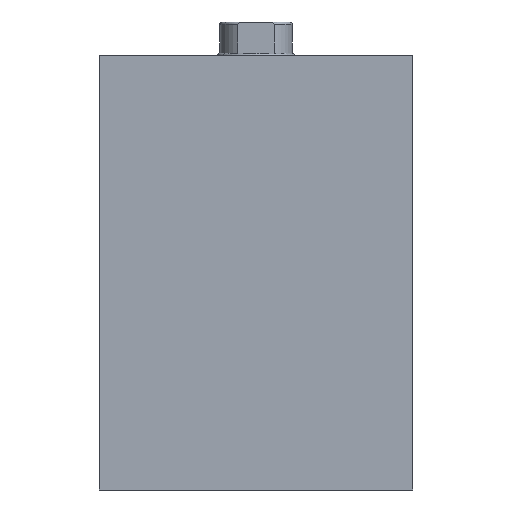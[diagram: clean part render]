
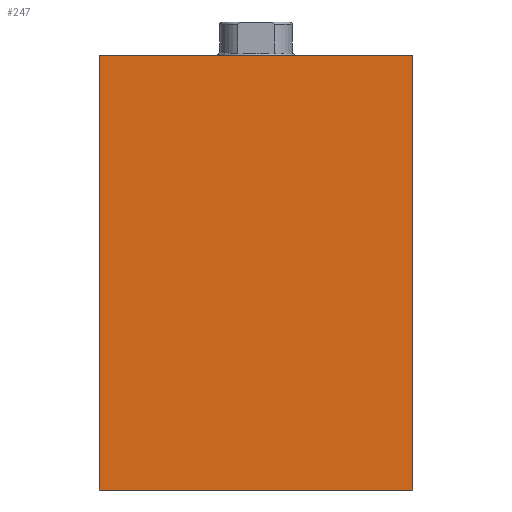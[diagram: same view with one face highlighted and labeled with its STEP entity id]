
A CAD part, left-side view. The second image highlights one B-rep face of the part: STEP entity #247.
In plain terms, the highlighted planar face has unit normal (-1, 0, 0) as drawn and (0, 0, -1) by its records, which use the part's own axes.
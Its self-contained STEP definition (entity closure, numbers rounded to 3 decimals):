
#247 = ADVANCED_FACE( '', ( #338 ), #339, .F. );
#338 = FACE_OUTER_BOUND( '', #554, .T. );
#339 = PLANE( '', #555 );
#554 = EDGE_LOOP( '', ( #789, #790, #791, #792 ) );
#555 = AXIS2_PLACEMENT_3D( '', #793, #794, #795 );
#789 = ORIENTED_EDGE( '', *, *, #1166, .T. );
#790 = ORIENTED_EDGE( '', *, *, #1183, .F. );
#791 = ORIENTED_EDGE( '', *, *, #1178, .F. );
#792 = ORIENTED_EDGE( '', *, *, #1182, .T. );
#793 = CARTESIAN_POINT( '', ( 90., -32.5, -22.5 ) );
#794 = DIRECTION( '', ( 0., 0., 1. ) );
#795 = DIRECTION( '', ( 1., 0., 0. ) );
#1166 = EDGE_CURVE( '', #1267, #1265, #1268, .T. );
#1178 = EDGE_CURVE( '', #1287, #1289, #1290, .T. );
#1182 = EDGE_CURVE( '', #1287, #1267, #1296, .T. );
#1183 = EDGE_CURVE( '', #1289, #1265, #1297, .T. );
#1265 = VERTEX_POINT( '', #1510 );
#1267 = VERTEX_POINT( '', #1513 );
#1268 = LINE( '', #1514, #1515 );
#1287 = VERTEX_POINT( '', #1706 );
#1289 = VERTEX_POINT( '', #1709 );
#1290 = LINE( '', #1710, #1711 );
#1296 = B_SPLINE_CURVE_WITH_KNOTS( '', 1, ( #1784, #1785 ), .UNSPECIFIED., .F., .F., ( 2, 2 ), ( 0., 1. ), .UNSPECIFIED. );
#1297 = B_SPLINE_CURVE_WITH_KNOTS( '', 1, ( #1786, #1787 ), .UNSPECIFIED., .F., .F., ( 2, 2 ), ( 0., 1. ), .UNSPECIFIED. );
#1510 = CARTESIAN_POINT( '', ( 0., 32.5, -22.5 ) );
#1513 = CARTESIAN_POINT( '', ( 0., -32.5, -22.5 ) );
#1514 = CARTESIAN_POINT( '', ( 0., -32.5, -22.5 ) );
#1515 = VECTOR( '', #3898, 1000. );
#1706 = CARTESIAN_POINT( '', ( 90., -32.5, -22.5 ) );
#1709 = CARTESIAN_POINT( '', ( 90., 32.5, -22.5 ) );
#1710 = CARTESIAN_POINT( '', ( 90., -32.5, -22.5 ) );
#1711 = VECTOR( '', #3905, 1000. );
#1784 = CARTESIAN_POINT( '', ( 90., -32.5, -22.5 ) );
#1785 = CARTESIAN_POINT( '', ( 0., -32.5, -22.5 ) );
#1786 = CARTESIAN_POINT( '', ( 90., 32.5, -22.5 ) );
#1787 = CARTESIAN_POINT( '', ( 0., 32.5, -22.5 ) );
#3898 = DIRECTION( '', ( 0., 1., 0. ) );
#3905 = DIRECTION( '', ( 0., 1., 0. ) );
